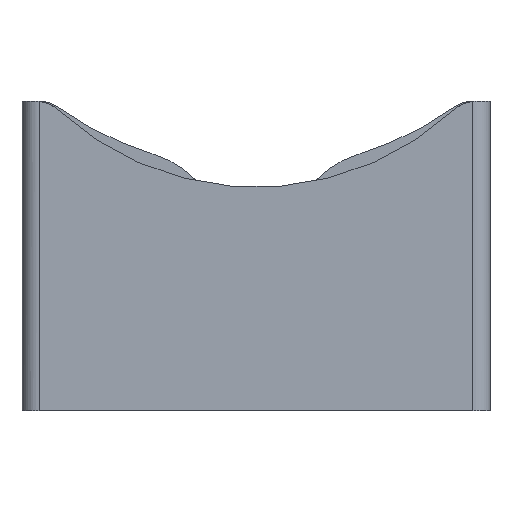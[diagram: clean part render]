
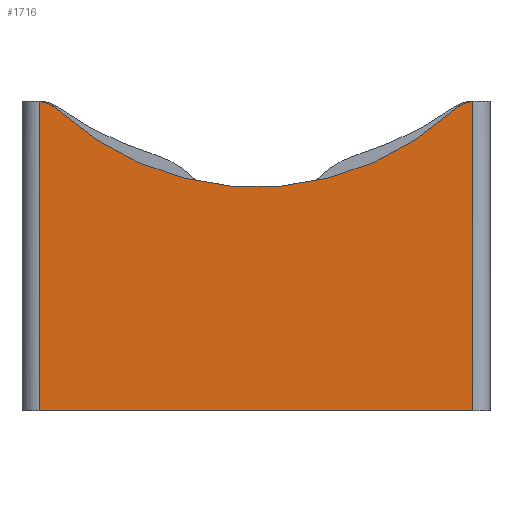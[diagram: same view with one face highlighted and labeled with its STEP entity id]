
A CAD part, left-side view. The second image highlights one B-rep face of the part: STEP entity #1716.
In plain terms, the highlighted planar face has unit normal (-1, 0, 0).
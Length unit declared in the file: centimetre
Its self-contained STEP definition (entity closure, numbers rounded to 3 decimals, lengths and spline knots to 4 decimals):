
#111=CIRCLE($,#1867,1.);
#112=CIRCLE($,#1869,8.5);
#113=CIRCLE($,#1871,1.);
#197=FACE_OUTER_BOUND($,#291,.T.);
#291=EDGE_LOOP($,(#1309,#1310,#1311,#1312,#1313,#1314));
#402=LINE($,#2694,#550);
#418=LINE($,#2779,#566);
#419=LINE($,#2781,#567);
#550=VECTOR($,#2162,8.9925);
#566=VECTOR($,#2224,8.9925);
#567=VECTOR($,#2227,12.6);
#733=VERTEX_POINT($,#2691);
#734=VERTEX_POINT($,#2693);
#754=VERTEX_POINT($,#2755);
#755=VERTEX_POINT($,#2757);
#757=VERTEX_POINT($,#2766);
#758=VERTEX_POINT($,#2773);
#931=EDGE_CURVE($,#733,#734,#402,.T.);
#956=EDGE_CURVE($,#754,#755,#111,.T.);
#960=EDGE_CURVE($,#757,#754,#112,.T.);
#962=EDGE_CURVE($,#734,#757,#113,.T.);
#966=EDGE_CURVE($,#755,#758,#418,.T.);
#967=EDGE_CURVE($,#733,#758,#419,.T.);
#1309=ORIENTED_EDGE($,*,*,#931,.F.);
#1310=ORIENTED_EDGE($,*,*,#967,.T.);
#1311=ORIENTED_EDGE($,*,*,#966,.F.);
#1312=ORIENTED_EDGE($,*,*,#956,.F.);
#1313=ORIENTED_EDGE($,*,*,#960,.F.);
#1314=ORIENTED_EDGE($,*,*,#962,.F.);
#1643=PLANE($,#1875);
#1716=ADVANCED_FACE($,(#197),#1643,.T.);
#1867=AXIS2_PLACEMENT_3D($,#2758,#2204,#2205);
#1869=AXIS2_PLACEMENT_3D($,#2768,#2210,#2211);
#1871=AXIS2_PLACEMENT_3D($,#2771,#2215,#2216);
#1875=AXIS2_PLACEMENT_3D($,#2780,#2225,#2226);
#2162=DIRECTION($,(0.,0.,1.));
#2204=DIRECTION('center_axis',(1.,0.,0.));
#2205=DIRECTION('ref_axis',(0.,0.363,0.932));
#2210=DIRECTION('center_axis',(-1.,0.,0.));
#2211=DIRECTION('ref_axis',(0.,0.,-1.));
#2215=DIRECTION('center_axis',(1.,0.,0.));
#2216=DIRECTION('ref_axis',(0.,-0.363,0.932));
#2224=DIRECTION($,(0.,0.,-1.));
#2225=DIRECTION('center_axis',(-1.,0.,0.));
#2226=DIRECTION('ref_axis',(0.,0.,1.));
#2227=DIRECTION($,(0.,-1.,0.));
#2691=CARTESIAN_POINT('',(-22.5,23.6,0.));
#2693=CARTESIAN_POINT('',(-22.5,23.6,8.9925));
#2694=CARTESIAN_POINT($,(-22.5,23.6,1.8));
#2755=CARTESIAN_POINT('',(-22.5,11.5534,8.7368));
#2757=CARTESIAN_POINT('',(-22.5,11.,8.9925));
#2758=CARTESIAN_POINT('Origin',(-22.5,10.8774,8.));
#2766=CARTESIAN_POINT('',(-22.5,23.0466,8.7368));
#2768=CARTESIAN_POINT('Origin',(-22.5,17.3,15.));
#2771=CARTESIAN_POINT('Origin',(-22.5,23.7226,8.));
#2773=CARTESIAN_POINT('',(-22.5,11.,0.));
#2779=CARTESIAN_POINT($,(-22.5,11.,1.8));
#2780=CARTESIAN_POINT('Origin',(-22.5,17.3,1.8));
#2781=CARTESIAN_POINT($,(-22.5,17.65,0.));
